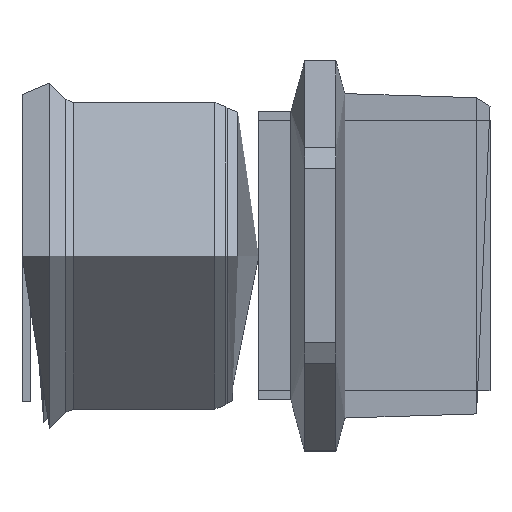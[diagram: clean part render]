
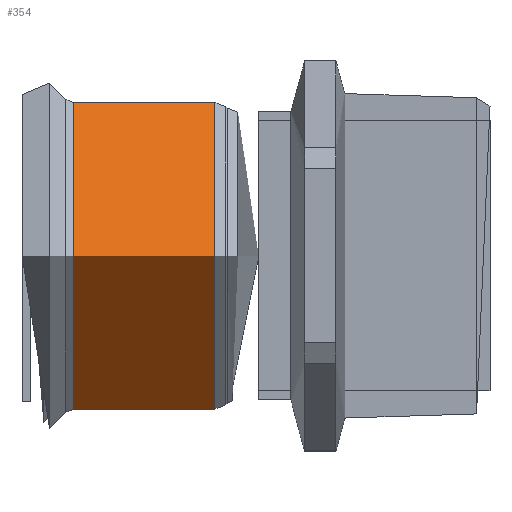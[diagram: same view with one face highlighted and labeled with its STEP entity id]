
A CAD part, top view. The second image highlights one B-rep face of the part: STEP entity #354.
In plain terms, the highlighted free-form (B-spline) face has degree [1, 2] with [2, 9] control points.
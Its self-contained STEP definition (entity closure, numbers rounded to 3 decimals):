
#294 = VERTEX_POINT('',#295);
#295 = CARTESIAN_POINT('',(35.849,0.,28.5));
#301 = EDGE_CURVE('',#294,#302,#304,.T.);
#302 = VERTEX_POINT('',#303);
#303 = CARTESIAN_POINT('',(35.849,-28.5,0.));
#304 = ( BOUNDED_CURVE() B_SPLINE_CURVE(2,(#305,#306,#307),
.UNSPECIFIED.,.F.,.F.) B_SPLINE_CURVE_WITH_KNOTS((3,3),(-1.571,
0.),.PIECEWISE_BEZIER_KNOTS.) CURVE() 
GEOMETRIC_REPRESENTATION_ITEM() RATIONAL_B_SPLINE_CURVE((1.,
0.707,1.)) REPRESENTATION_ITEM('') );
#305 = CARTESIAN_POINT('',(35.849,0.,28.5));
#306 = CARTESIAN_POINT('',(35.849,-28.5,28.5));
#307 = CARTESIAN_POINT('',(35.849,-28.5,0.));
#309 = EDGE_CURVE('',#302,#310,#312,.T.);
#310 = VERTEX_POINT('',#311);
#311 = CARTESIAN_POINT('',(35.849,28.5,0.));
#312 = ( BOUNDED_CURVE() B_SPLINE_CURVE(2,(#313,#314,#315,#316,#317),
.UNSPECIFIED.,.F.,.F.) B_SPLINE_CURVE_WITH_KNOTS((3,2,3),(
    0.,1.571,3.142),.UNSPECIFIED.) 
CURVE() GEOMETRIC_REPRESENTATION_ITEM() RATIONAL_B_SPLINE_CURVE((1.,
0.707,1.,0.707,1.)) REPRESENTATION_ITEM('') );
#313 = CARTESIAN_POINT('',(35.849,-28.5,0.));
#314 = CARTESIAN_POINT('',(35.849,-28.5,-28.5));
#315 = CARTESIAN_POINT('',(35.849,0.,-28.5));
#316 = CARTESIAN_POINT('',(35.849,28.5,-28.5));
#317 = CARTESIAN_POINT('',(35.849,28.5,0.));
#319 = EDGE_CURVE('',#310,#294,#320,.T.);
#320 = ( BOUNDED_CURVE() B_SPLINE_CURVE(2,(#321,#322,#323),
.UNSPECIFIED.,.F.,.F.) B_SPLINE_CURVE_WITH_KNOTS((3,3),(-3.142,
-1.571),.PIECEWISE_BEZIER_KNOTS.) CURVE() 
GEOMETRIC_REPRESENTATION_ITEM() RATIONAL_B_SPLINE_CURVE((1.,
0.707,1.)) REPRESENTATION_ITEM('') );
#321 = CARTESIAN_POINT('',(35.849,28.5,0.));
#322 = CARTESIAN_POINT('',(35.849,28.5,28.5));
#323 = CARTESIAN_POINT('',(35.849,0.,28.5));
#354 = ADVANCED_FACE('',(#355),#392,.T.);
#355 = FACE_BOUND('',#356,.T.);
#356 = EDGE_LOOP('',(#357,#358,#359,#366,#376,#384,#390,#391));
#357 = ORIENTED_EDGE('',*,*,#319,.F.);
#358 = ORIENTED_EDGE('',*,*,#309,.F.);
#359 = ORIENTED_EDGE('',*,*,#360,.T.);
#360 = EDGE_CURVE('',#302,#361,#363,.T.);
#361 = VERTEX_POINT('',#362);
#362 = CARTESIAN_POINT('',(9.571,-28.5,0.));
#363 = B_SPLINE_CURVE_WITH_KNOTS('',1,(#364,#365),.UNSPECIFIED.,.F.,.F.,
  (2,2),(-0.441,0.481),.PIECEWISE_BEZIER_KNOTS.);
#364 = CARTESIAN_POINT('',(35.849,-28.5,0.));
#365 = CARTESIAN_POINT('',(9.571,-28.5,0.));
#366 = ORIENTED_EDGE('',*,*,#367,.T.);
#367 = EDGE_CURVE('',#361,#368,#370,.T.);
#368 = VERTEX_POINT('',#369);
#369 = CARTESIAN_POINT('',(9.571,28.5,0.));
#370 = ( BOUNDED_CURVE() B_SPLINE_CURVE(2,(#371,#372,#373,#374,#375),
.UNSPECIFIED.,.F.,.F.) B_SPLINE_CURVE_WITH_KNOTS((3,2,3),(3.142,
4.712,6.283),.PIECEWISE_BEZIER_KNOTS.) CURVE() 
GEOMETRIC_REPRESENTATION_ITEM() RATIONAL_B_SPLINE_CURVE((1.,
0.707,1.,0.707,1.)) REPRESENTATION_ITEM('') );
#371 = CARTESIAN_POINT('',(9.571,-28.5,0.));
#372 = CARTESIAN_POINT('',(9.571,-28.5,-28.5));
#373 = CARTESIAN_POINT('',(9.571,0.,-28.5));
#374 = CARTESIAN_POINT('',(9.571,28.5,-28.5));
#375 = CARTESIAN_POINT('',(9.571,28.5,0.));
#376 = ORIENTED_EDGE('',*,*,#377,.T.);
#377 = EDGE_CURVE('',#368,#378,#380,.T.);
#378 = VERTEX_POINT('',#379);
#379 = CARTESIAN_POINT('',(9.571,0.,28.5));
#380 = ( BOUNDED_CURVE() B_SPLINE_CURVE(2,(#381,#382,#383),
.UNSPECIFIED.,.F.,.F.) B_SPLINE_CURVE_WITH_KNOTS((3,3),(0.,
1.571),.PIECEWISE_BEZIER_KNOTS.) CURVE() 
GEOMETRIC_REPRESENTATION_ITEM() RATIONAL_B_SPLINE_CURVE((1.,
0.707,1.)) REPRESENTATION_ITEM('') );
#381 = CARTESIAN_POINT('',(9.571,28.5,0.));
#382 = CARTESIAN_POINT('',(9.571,28.5,28.5));
#383 = CARTESIAN_POINT('',(9.571,0.,28.5));
#384 = ORIENTED_EDGE('',*,*,#385,.T.);
#385 = EDGE_CURVE('',#378,#361,#386,.T.);
#386 = ( BOUNDED_CURVE() B_SPLINE_CURVE(2,(#387,#388,#389),
.UNSPECIFIED.,.F.,.F.) B_SPLINE_CURVE_WITH_KNOTS((3,3),(1.571,
3.142),.PIECEWISE_BEZIER_KNOTS.) CURVE() 
GEOMETRIC_REPRESENTATION_ITEM() RATIONAL_B_SPLINE_CURVE((1.,
0.707,1.)) REPRESENTATION_ITEM('') );
#387 = CARTESIAN_POINT('',(9.571,0.,28.5));
#388 = CARTESIAN_POINT('',(9.571,-28.5,28.5));
#389 = CARTESIAN_POINT('',(9.571,-28.5,0.));
#390 = ORIENTED_EDGE('',*,*,#360,.F.);
#391 = ORIENTED_EDGE('',*,*,#301,.F.);
#392 = ( BOUNDED_SURFACE() B_SPLINE_SURFACE(1,2,(
    (#393,#394,#395,#396,#397,#398,#399,#400,#401)
    ,(#402,#403,#404,#405,#406,#407,#408,#409,#410
)),.UNSPECIFIED.,.F.,.T.,.F.) B_SPLINE_SURFACE_WITH_KNOTS((2,2),(1,2,2,2
    ,2,2,1),(-0.481,0.441),(-4.712,
    -3.142,-1.571,0.,1.571,3.142,
4.712),.UNSPECIFIED.) GEOMETRIC_REPRESENTATION_ITEM() 
RATIONAL_B_SPLINE_SURFACE((
    (1.,0.707,1.,0.707,1.,0.707,1.
      ,0.707,1.)
    ,(1.,0.707,1.,0.707,1.,0.707,1.
,0.707,1.))) REPRESENTATION_ITEM('') SURFACE() );
#393 = CARTESIAN_POINT('',(35.849,-28.5,0.));
#394 = CARTESIAN_POINT('',(35.849,-28.5,-28.5));
#395 = CARTESIAN_POINT('',(35.849,0.,-28.5));
#396 = CARTESIAN_POINT('',(35.849,28.5,-28.5));
#397 = CARTESIAN_POINT('',(35.849,28.5,0.));
#398 = CARTESIAN_POINT('',(35.849,28.5,28.5));
#399 = CARTESIAN_POINT('',(35.849,0.,28.5));
#400 = CARTESIAN_POINT('',(35.849,-28.5,28.5));
#401 = CARTESIAN_POINT('',(35.849,-28.5,0.));
#402 = CARTESIAN_POINT('',(9.571,-28.5,0.));
#403 = CARTESIAN_POINT('',(9.571,-28.5,-28.5));
#404 = CARTESIAN_POINT('',(9.571,0.,-28.5));
#405 = CARTESIAN_POINT('',(9.571,28.5,-28.5));
#406 = CARTESIAN_POINT('',(9.571,28.5,0.));
#407 = CARTESIAN_POINT('',(9.571,28.5,28.5));
#408 = CARTESIAN_POINT('',(9.571,0.,28.5));
#409 = CARTESIAN_POINT('',(9.571,-28.5,28.5));
#410 = CARTESIAN_POINT('',(9.571,-28.5,0.));
